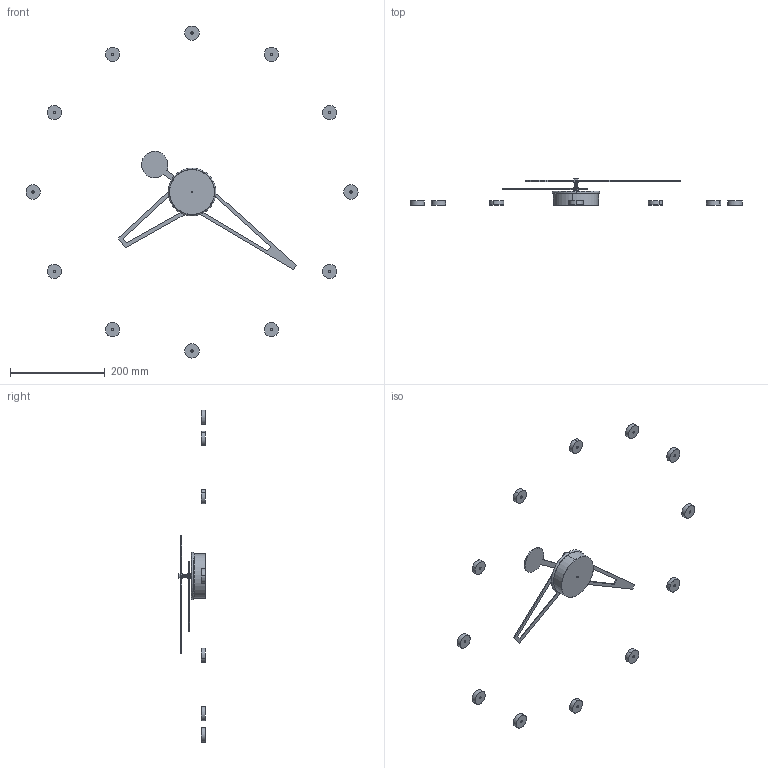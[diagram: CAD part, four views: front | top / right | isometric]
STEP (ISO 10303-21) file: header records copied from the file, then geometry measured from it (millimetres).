
FILE_DESCRIPTION (( 'STEP AP214' ), '1' );
FILE_NAME ('Rodón_n.STEP', '2016-09-15T09:34:09', ( '' ), ( '' ), 'SwSTEP 2.0', 'SolidWorks 2013', '' );
FILE_SCHEMA (( 'AUTOMOTIVE_DESIGN' ));
Length unit declared in the file: millimetre
Products named in the file (18): Esparrago; Rodón_n; Aguja_horaria_rodón_n; Arandela_2; Pieza_caja_nogal_superior; Aguja_horaria_Rodón_n; Pasante; Arandela; Mecanismo; Pieza_caja_nogal_inferior; Aguja_minutera_Rodón_n; Señal_horaria_rodón; Tuerca 1.5; Embellecedor; Tuerca; Pieza2; Caja_nogal; Aguja_minutera_rodón_n
Assembly tree (28 placements, depth 3):
  Rodón_n
    Caja_nogal
      Pieza_caja_nogal_superior
      Pieza_caja_nogal_inferior
      Mecanismo
      Pieza2
    Aguja_horaria_Rodón_n
      Aguja_horaria_rodón_n
      Arandela_2
      Pasante
      Tuerca
    Aguja_minutera_Rodón_n
      Aguja_minutera_rodón_n
      Arandela
      Embellecedor
      Esparrago
      Tuerca 1.5
    Señal_horaria_rodón  x12
Bounding box: 700.14 x 56.3 x 700.14 mm (x, y, z)
Volume: 231960.8 mm3; surface area: 125008.2 mm2
Topology: 25 solids, 25 shells, 273 faces, 558 edges, 360 vertices
Faces by surface type: cylinder 128, plane 113, torus 24, cone 8
Entity records: 6346 total; most frequent: DIRECTION 1098, CARTESIAN_POINT 1028, ORIENTED_EDGE 852, AXIS2_PLACEMENT_3D 446, EDGE_CURVE 426, VERTEX_POINT 272, EDGE_LOOP 236, CIRCLE 216
